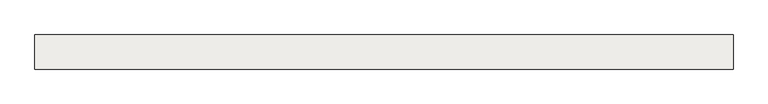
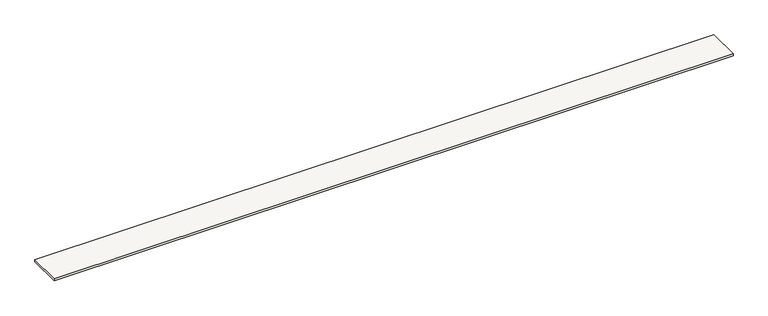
"""IFC4 building model written with IfcOpenShell, lengths in millimetres: slab geometry, Sol-02 - Tablette bois 2cm."""

from ifc_helpers import new_model, si_unit, origin, origin_with_axes, place, context, project, spatial, polyline, outline, extrude, source, transform, mapped, element, save


def slab_073ee358(model_context):
    return source(origin(), model_context, "Body", "SweptSolid", [
        extrude(outline(polyline([(31495.0, 11352.3446595), (31495.0, 11002.3446595), (24340.0, 11002.3446595), (24340.0, 11352.3446595), (31495.0, 11352.3446595)])), origin_with_axes(), (0.0, 0.0, 1.0), 20.0),
    ])


if __name__ == "__main__":
    model = new_model("IFC4")
    model_context = context("Model", 3, world=origin())
    ifc_project = project(units=[si_unit("LENGTHUNIT", "METRE", prefix="MILLI")], contexts=[model_context])
    site = spatial("IfcSite", under=ifc_project)
    building = spatial("IfcBuilding", under=site)
    placement = place(None, origin())
    slab_shape = slab_073ee358(model_context)
    element("IfcSlab", 1, ObjectType="Sol-02 - Tablette bois 2cm", at=placement, inside=building, context=model_context, shape_type="MappedRepresentation", body=[
        mapped(slab_shape, transform((0.0, 0.0, 0.0), x_axis=(1.0, 0.0, 0.0), y_axis=(0.0, 1.0, 0.0), z_axis=(0.0, 0.0, 1.0))),
    ])
    save(model, "model.ifc")
